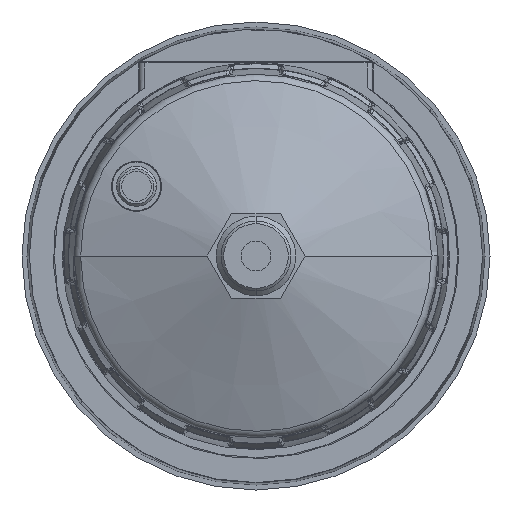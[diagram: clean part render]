
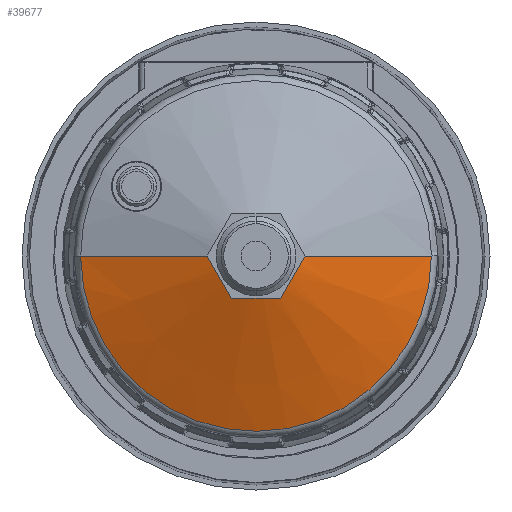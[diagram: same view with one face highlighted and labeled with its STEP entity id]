
A CAD part, front view. The second image highlights one B-rep face of the part: STEP entity #39677.
In plain terms, the highlighted conical face has half-angle 70 degrees and reference radius 21.858 mm.
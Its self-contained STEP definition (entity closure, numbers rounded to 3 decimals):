
#21504=CARTESIAN_POINT('',(0.,-50.076,0.));
#21505=DIRECTION('',(0.,-1.,0.));
#21506=DIRECTION('',(-1.,0.,0.));
#21507=AXIS2_PLACEMENT_3D('',#21504,#21505,#21506);
#21509=CARTESIAN_POINT('',(0.,-50.076,0.));
#21510=DIRECTION('',(0.,-1.,0.));
#21511=DIRECTION('',(-1.,0.,-0.008));
#21512=AXIS2_PLACEMENT_3D('',#21509,#21510,#21511);
#25885=DIRECTION('',(-0.94,-0.342,
0.));
#25886=VECTOR('',#25885,28.43);
#25887=CARTESIAN_POINT('',(35.216,-50.076,
0.));
#25888=LINE('',#25887,#25886);
#25894=DIRECTION('',(0.94,-0.342,0.));
#25895=VECTOR('',#25894,28.43);
#25896=CARTESIAN_POINT('',(-35.216,-50.076,
0.));
#25897=LINE('',#25896,#25895);
#25898=CARTESIAN_POINT('',(0.,-59.8,0.));
#25899=DIRECTION('',(0.,-1.,0.));
#25900=DIRECTION('',(-1.,0.,0.));
#25901=AXIS2_PLACEMENT_3D('',#25898,#25899,#25900);
#26398=CARTESIAN_POINT('',(-35.216,-50.076,
0.));
#26399=VERTEX_POINT('',#26398);
#26400=CARTESIAN_POINT('',(-35.214,-50.076,
-0.287));
#26401=CARTESIAN_POINT('',(35.216,-50.076,0.));
#26402=VERTEX_POINT('',#26400);
#26403=VERTEX_POINT('',#26401);
#26688=CARTESIAN_POINT('',(8.5,-59.8,0.));
#26689=VERTEX_POINT('',#26688);
#26690=CARTESIAN_POINT('',(-8.5,-59.8,0.));
#26691=VERTEX_POINT('',#26690);
#39664=CARTESIAN_POINT('',(0.,-54.938,0.));
#39665=DIRECTION('',(0.,1.,0.));
#39666=DIRECTION('',(1.,0.,0.));
#39667=AXIS2_PLACEMENT_3D('',#39664,#39665,#39666);
#39668=CONICAL_SURFACE('',#39667,21.858,70.);
#39669=ORIENTED_EDGE('',*,*,#28555,.F.);
#39670=ORIENTED_EDGE('',*,*,#28553,.F.);
#39671=ORIENTED_EDGE('',*,*,#39659,.T.);
#39673=ORIENTED_EDGE('',*,*,#39672,.T.);
#39674=ORIENTED_EDGE('',*,*,#39655,.F.);
#39675=EDGE_LOOP('',(#39669,#39670,#39671,#39673,#39674));
#39676=FACE_OUTER_BOUND('',#39675,.F.);
#39677=ADVANCED_FACE('',(#39676),#39668,.T.);
#21508=CIRCLE('',#21507,35.216);
#21513=CIRCLE('',#21512,35.216);
#25902=CIRCLE('',#25901,8.5);
#28553=EDGE_CURVE('',#26399,#26402,#21508,.T.);
#28555=EDGE_CURVE('',#26402,#26403,#21513,.T.);
#39655=EDGE_CURVE('',#26403,#26689,#25888,.T.);
#39659=EDGE_CURVE('',#26399,#26691,#25897,.T.);
#39672=EDGE_CURVE('',#26691,#26689,#25902,.T.);
